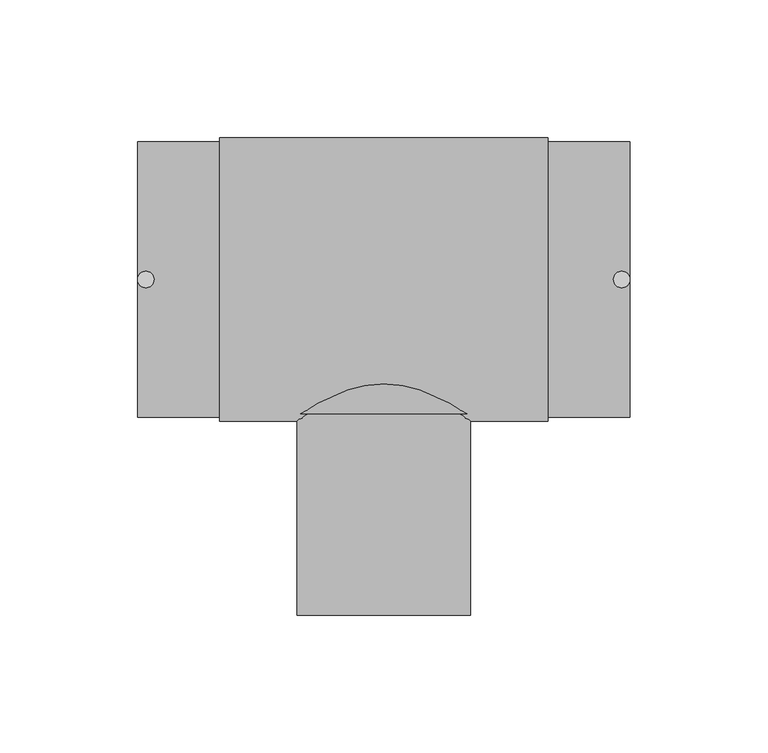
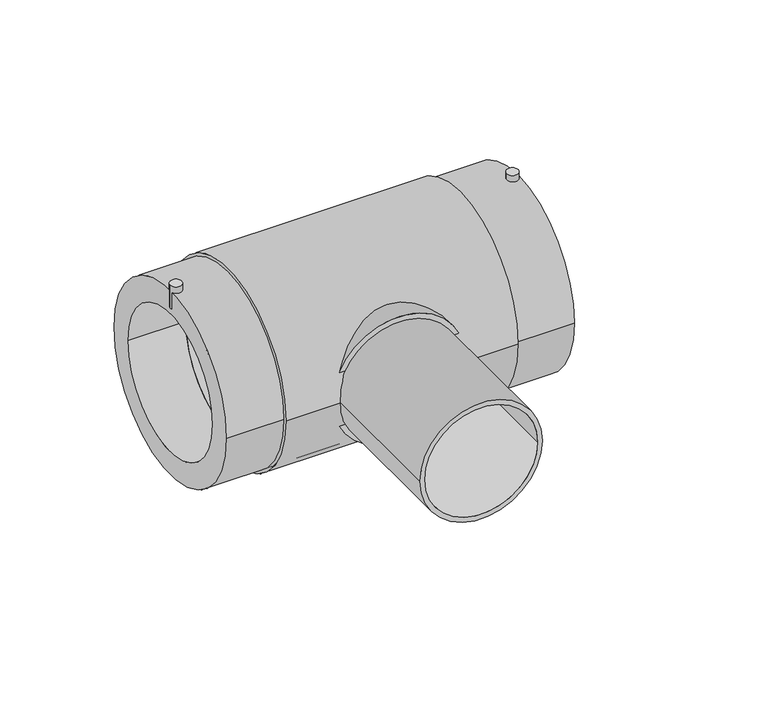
"""IFC4 building model written with IfcOpenShell, lengths in millimetres: pipe fitting geometry, EGB_VASEN_ PPR_Te electrosoldable WXRD300_Te reducida electrosoldable WXRD310 : Te electrosoldable."""

from ifc_helpers import new_model, si_unit, point, frame, frame_2d, origin, origin_2d, place, context, project, spatial, circle_curve, trimmed, segment, composite_curve, outline, extrude, source, transform, mapped, element, save


def pipe_fitting_4ae277d1(model_context):
    return source(origin(), model_context, "Body", "SweptSolid", [
        extrude(outline(composite_curve([segment(trimmed(circle_curve(frame_2d((-86.5, 0.0)), 3.0), [point((-89.5, 0.0))], [point((-83.5, 0.0))], False, "CARTESIAN"), True, "CONTINUOUS"), segment(trimmed(circle_curve(frame_2d((-86.5, 0.0)), 3.0), [point((-83.5, 0.0))], [point((-89.5, 0.0))], False, "CARTESIAN"), True, "CONTINUOUS")], self_intersect=False)), frame((0.0, 0.0, 40.5), z_axis=(0.0, 0.0, 1.0), x_axis=(1.0, 0.0, 0.0)), (0.0, 0.0, 1.0), 12.5),
        extrude(outline(composite_curve([segment(trimmed(circle_curve(frame_2d((86.5, 0.0)), 3.0), [point((83.5, 0.0))], [point((89.5, 0.0))], False, "CARTESIAN"), True, "CONTINUOUS"), segment(trimmed(circle_curve(frame_2d((86.5, 0.0)), 3.0), [point((89.5, 0.0))], [point((83.5, 0.0))], False, "CARTESIAN"), True, "CONTINUOUS")], self_intersect=False)), frame((0.0, 0.0, 40.5), z_axis=(0.0, 0.0, 1.0), x_axis=(1.0, 0.0, 0.0)), (0.0, 0.0, 1.0), 12.5),
        extrude(outline(composite_curve([segment(trimmed(circle_curve(origin_2d(), 34.0), [point((0.0, 34.0))], [point((0.0, -34.0))], False, "CARTESIAN"), True, "CONTINUOUS"), segment(trimmed(circle_curve(origin_2d(), 34.0), [point((0.0, -34.0))], [point((0.0, 34.0))], False, "CARTESIAN"), True, "CONTINUOUS")], self_intersect=False)), frame((0.0, -48.8, 0.0), z_axis=(0.0, 1.0, 0.0), x_axis=(0.0, 0.0, 1.0)), (0.0, 0.0, 1.0), 48.8),
        extrude(outline(composite_curve([segment(trimmed(circle_curve(origin_2d(), 31.5), [point((0.0, -31.5))], [point((0.0, 31.5))], False, "CARTESIAN"), True, "CONTINUOUS"), segment(trimmed(circle_curve(origin_2d(), 31.5), [point((0.0, 31.5))], [point((0.0, -31.5))], False, "CARTESIAN"), True, "CONTINUOUS")], self_intersect=False), holes=[composite_curve([segment(trimmed(circle_curve(origin_2d(), 29.0), [point((0.0, -29.0))], [point((0.0, 29.0))], True, "CARTESIAN"), True, "CONTINUOUS"), segment(trimmed(circle_curve(origin_2d(), 29.0), [point((0.0, 29.0))], [point((0.0, -29.0))], True, "CARTESIAN"), True, "CONTINUOUS")], self_intersect=False)]), frame((0.0, -122.0, 0.0), z_axis=(0.0, 1.0, 0.0), x_axis=(0.0, 0.0, 1.0)), (0.0, 0.0, 1.0), 73.2),
        extrude(outline(composite_curve([segment(trimmed(circle_curve(origin_2d(), 51.5), [point((-51.5, 0.0))], [point((51.5, 0.0))], False, "CARTESIAN"), True, "CONTINUOUS"), segment(trimmed(circle_curve(origin_2d(), 51.5), [point((51.5, 0.0))], [point((-51.5, 0.0))], False, "CARTESIAN"), True, "CONTINUOUS")], self_intersect=False), holes=[composite_curve([segment(trimmed(circle_curve(origin_2d(), 37.5), [point((-37.5, 0.0))], [point((37.5, 0.0))], True, "CARTESIAN"), True, "CONTINUOUS"), segment(trimmed(circle_curve(origin_2d(), 37.5), [point((37.5, 0.0))], [point((-37.5, 0.0))], True, "CARTESIAN"), True, "CONTINUOUS")], self_intersect=False)]), frame((-59.6666667, 0.0, 0.0), z_axis=(1.0, 0.0, 0.0), x_axis=(0.0, 1.0, 0.0)), (0.0, 0.0, 1.0), 119.3333333),
        extrude(outline(composite_curve([segment(trimmed(circle_curve(origin_2d(), 50.0), [point((-50.0, 0.0))], [point((50.0, 0.0))], False, "CARTESIAN"), True, "CONTINUOUS"), segment(trimmed(circle_curve(origin_2d(), 50.0), [point((50.0, 0.0))], [point((-50.0, 0.0))], False, "CARTESIAN"), True, "CONTINUOUS")], self_intersect=False), holes=[composite_curve([segment(trimmed(circle_curve(origin_2d(), 37.5), [point((-37.5, 0.0))], [point((37.5, 0.0))], True, "CARTESIAN"), True, "CONTINUOUS"), segment(trimmed(circle_curve(origin_2d(), 37.5), [point((37.5, 0.0))], [point((-37.5, 0.0))], True, "CARTESIAN"), True, "CONTINUOUS")], self_intersect=False)]), frame((-89.5, 0.0, 0.0), z_axis=(1.0, 0.0, 0.0), x_axis=(0.0, 1.0, 0.0)), (0.0, 0.0, 1.0), 179.0),
    ])


if __name__ == "__main__":
    model = new_model("IFC4")
    model_context = context("Model", 3, world=origin())
    ifc_project = project(units=[si_unit("LENGTHUNIT", "METRE", prefix="MILLI")], contexts=[model_context])
    site = spatial("IfcSite", under=ifc_project)
    building = spatial("IfcBuilding", under=site)
    placement = place(None, origin())
    pipe_fitting_shape = pipe_fitting_4ae277d1(model_context)
    element("IfcPipeFitting", 1, ObjectType="EGB_VASEN_ PPR_Te electrosoldable WXRD300_Te reducida electrosoldable WXRD310 : Te electrosoldable", at=placement, inside=building, context=model_context, shape_type="MappedRepresentation", body=[
        mapped(pipe_fitting_shape, transform((0.0, 0.0, 0.0), x_axis=(1.0, 0.0, 0.0), y_axis=(0.0, 1.0, 0.0), z_axis=(0.0, 0.0, 1.0))),
    ])
    save(model, "model.ifc")
